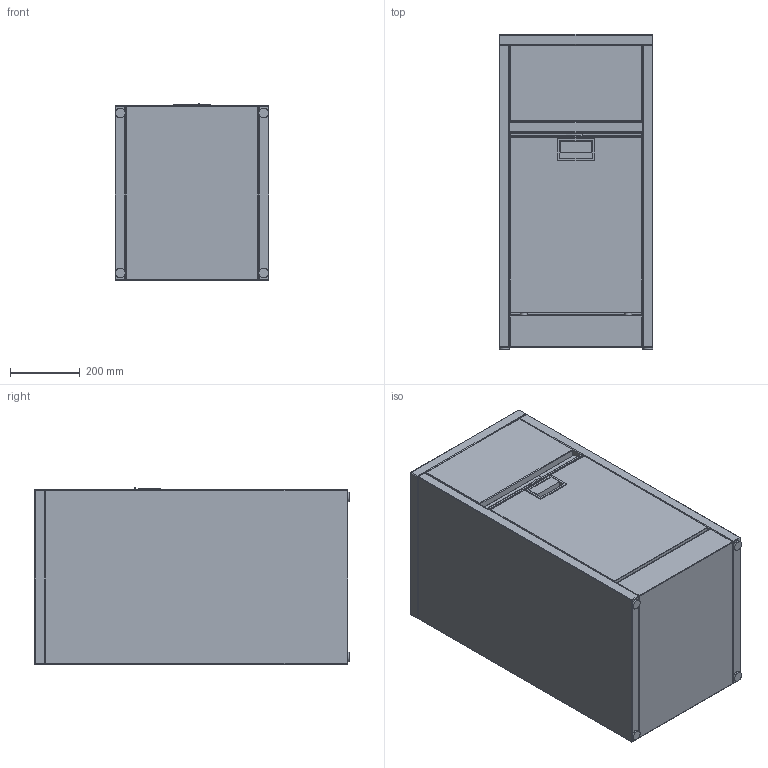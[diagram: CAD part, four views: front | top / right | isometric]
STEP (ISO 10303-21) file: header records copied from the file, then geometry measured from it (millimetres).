
FILE_DESCRIPTION(/* description */ (''),/* implementation_level */ '2;1');
FILE_NAME(/* name */ 'C:\INVENTOR\Workspace\# ARKITEKT FILER\Cabinets\Cabinet Fridge\Arbetsfiler\Cabinet Fridge.stp',/* time_stamp */ '2020-05-26T11:19:28+02:00',/* author */ ('Röshults'),/* organization */ (''),/* preprocessor_version */ 'ST-DEVELOPER v17.2',/* originating_system */ 'Autodesk Inventor 2019',/* authorisation */ '');
FILE_SCHEMA (('AUTOMOTIVE_DESIGN { 1 0 10303 214 3 1 1 }'));
Length unit declared in the file: millimetre
Products named in the file (10): Cabinet Fridge; Cabinet Fridge Bottom; Cabinet Fridge Side; Cabinet Fridge Top; Back Tank; Cabinet Fridge Låda; Cabinet Fridge Front list; 100287; Fridge; 100454
Assembly tree (13 placements, depth 2):
  Cabinet Fridge
    Cabinet Fridge Bottom
    Cabinet Fridge Side  x2
    Cabinet Fridge Top
    Back Tank
    Cabinet Fridge Låda
    Cabinet Fridge Front list
    100287  x4
    Fridge
    100454
Bounding box: 442 x 905 x 509.08 mm (x, y, z)
Volume: 143251611.7 mm3; surface area: 5774647.3 mm2
Topology: 13 solids, 13 shells, 372 faces, 809 edges, 482 vertices
Faces by surface type: cylinder 151, plane 135, sphere 55, torus 27, cone 4
Full cylindrical faces by diameter (mm): 8 x4, 10.648 x18, 20 x8, 28 x4, 43 x1
Entity records: 9500 total; most frequent: DIRECTION 1773, CARTESIAN_POINT 1520, ORIENTED_EDGE 1462, EDGE_CURVE 731, AXIS2_PLACEMENT_3D 687, VERTEX_POINT 434, LINE 399, VECTOR 399
